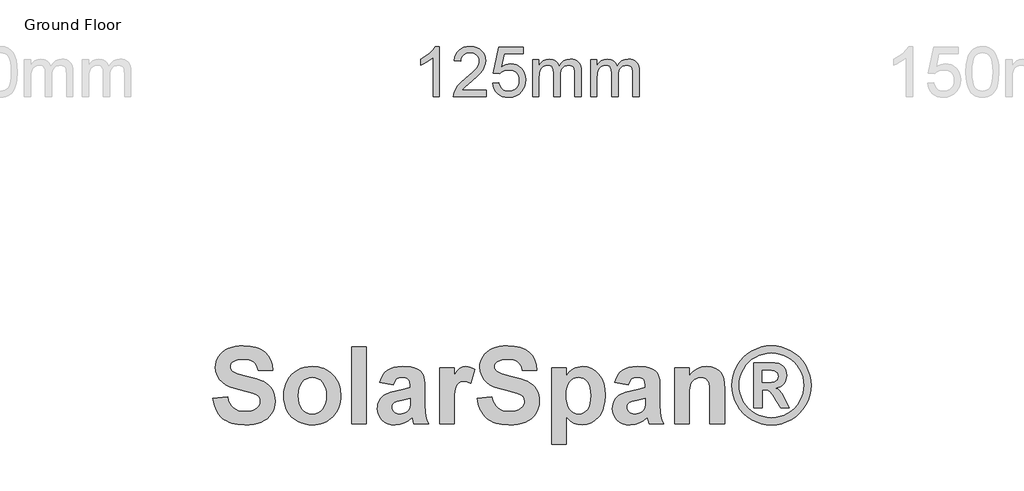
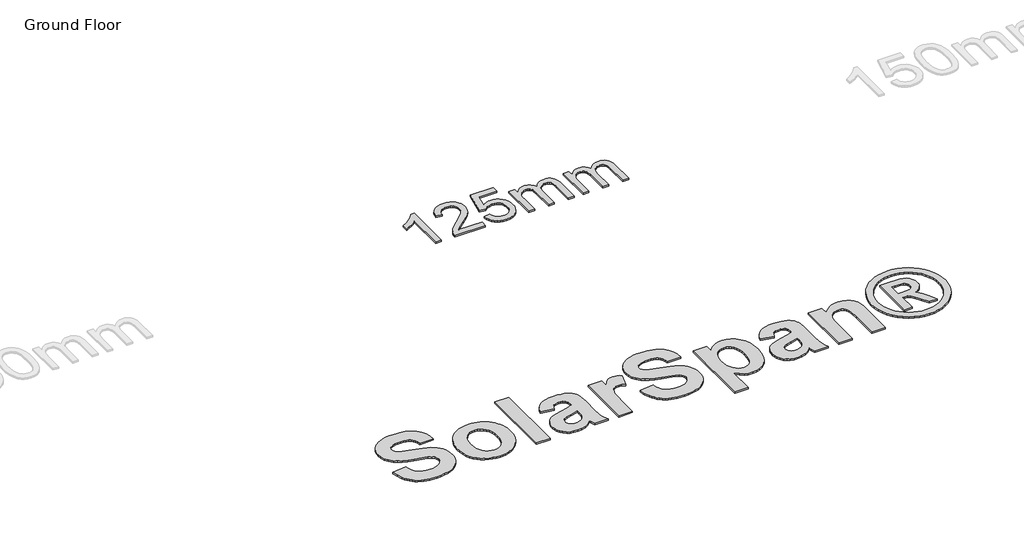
# One storey, part 2 of 3: 2 proxies.
"""IFC4 building model written with IfcOpenShell, lengths in millimetres."""

import ifcopenshell
import ifcopenshell.guid

model = None  # the IFC model being written
_history = None  # IfcOwnerHistory: only IFC2X3 demands one
_inside = {}  # id of a spatial element -> (the spatial element, [elements in it])
_under = {}  # id of a project, library or spatial element -> (it, [spatial elements below it])
_declared = {}  # id of a project -> (the project, [libraries it declares])
_typed = {}  # id of a type object -> (the type object, [elements of that type])
_made_of = {}  # id of a material, layer set ... -> (it, [elements and type objects made of it])


def new_model(schema):
    """Start an empty IFC model of exactly this schema.

    Asked for "IFC4X3", IfcOpenShell would pick the latest addendum, in which some entities
    have other attributes; the version numbers below select the first issue.
    IFC2X3 requires an IfcOwnerHistory on every rooted entity: one is made here for all.
    """
    global model, _history
    if schema == "IFC4X3":
        model = ifcopenshell.file(schema_version=(4, 3, 0, 0))
    else:
        model = ifcopenshell.file(schema=schema)
    _inside.clear()
    _under.clear()
    _declared.clear()
    _typed.clear()
    _made_of.clear()
    _history = None
    if model.schema == "IFC2X3":
        org = make("IfcOrganization", Name="unknown")
        user = make(
            "IfcPersonAndOrganization",
            ThePerson=make("IfcPerson", FamilyName="unknown"),
            TheOrganization=org,
        )
        app = make(
            "IfcApplication",
            ApplicationDeveloper=org,
            Version="unknown",
            ApplicationFullName="unknown",
            ApplicationIdentifier="unknown",
        )
        _history = make(
            "IfcOwnerHistory",
            OwningUser=user,
            OwningApplication=app,
            ChangeAction="ADDED",
            CreationDate=0,
        )
    return model


def make(cls, **values):
    """One entity of the class cls with the attributes given. An attribute that is None is left unset."""
    return model.create_entity(
        cls, **{name: value for name, value in values.items() if value is not None}
    )


def rooted(cls, **values):
    """An entity with a GlobalId (a new one), such as an element, a storey or a relation."""
    return make(cls, GlobalId=ifcopenshell.guid.new(), OwnerHistory=_history, **values)


def si_unit(unit_type, name, prefix=None):
    """IfcSIUnit, for example si_unit("LENGTHUNIT", "METRE", prefix="MILLI")."""
    return make("IfcSIUnit", UnitType=unit_type, Prefix=prefix, Name=name)


def assignment(units):
    """IfcUnitAssignment: the units of a project."""
    return None if units is None else make("IfcUnitAssignment", Units=units)


def point(xyz):
    """IfcCartesianPoint."""
    return None if xyz is None else make("IfcCartesianPoint", Coordinates=xyz)


def direction(xyz):
    """IfcDirection."""
    return None if xyz is None else make("IfcDirection", DirectionRatios=xyz)


def frame(location, z_axis=None, x_axis=None):
    """IfcAxis2Placement3D, a coordinate frame: its origin and axes. An axis left out is left unset."""
    return make(
        "IfcAxis2Placement3D",
        Location=point(location),
        Axis=direction(z_axis),
        RefDirection=direction(x_axis),
    )


def origin():
    """The frame at (0, 0, 0) with its axes left unset."""
    return frame((0.0, 0.0, 0.0))


def origin_with_axes():
    """The frame at (0, 0, 0) with the z axis (0, 0, 1) and the x axis (1, 0, 0) written out."""
    return frame((0.0, 0.0, 0.0), z_axis=(0.0, 0.0, 1.0), x_axis=(1.0, 0.0, 0.0))


def place(relative_to, where):
    """IfcLocalPlacement: puts the frame where relative to a parent placement (None: the world)."""
    return make(
        "IfcLocalPlacement", PlacementRelTo=relative_to, RelativePlacement=where
    )


def context(
    kind, dimensions, precision=None, world=None, true_north=None, identifier=None
):
    """IfcGeometricRepresentationContext, for example the 3D "Model" context."""
    return make(
        "IfcGeometricRepresentationContext",
        ContextIdentifier=identifier,
        ContextType=kind,
        CoordinateSpaceDimension=dimensions,
        Precision=precision,
        WorldCoordinateSystem=world,
        TrueNorth=true_north,
    )


def project(units=None, contexts=None):
    """IfcProject with its units and contexts."""
    return rooted(
        "IfcProject",
        Name="project",
        RepresentationContexts=contexts,
        UnitsInContext=assignment(units),
    )


def spatial(cls, under=None, at=None, **own):
    """A site, building, storey or space (cls), placed at a placement, below another one or the project."""
    s = rooted(cls, ObjectPlacement=at, **own)
    if under is not None:
        _under.setdefault(under.id(), (under, []))[1].append(s)
    return s


def polyline(points):
    """IfcPolyline through the points."""
    return make("IfcPolyline", Points=[point(p) for p in points])


def outline(outer, holes=None, kind="AREA"):
    """IfcArbitraryClosedProfileDef: a profile drawn as a closed curve; with holes, ...WithVoids."""
    if holes is None:
        return make("IfcArbitraryClosedProfileDef", ProfileType=kind, OuterCurve=outer)
    return make(
        "IfcArbitraryProfileDefWithVoids",
        ProfileType=kind,
        OuterCurve=outer,
        InnerCurves=holes,
    )


def extrude(swept, where, along, depth):
    """IfcExtrudedAreaSolid: the profile swept, set in the frame where, extruded along a direction by depth."""
    return make(
        "IfcExtrudedAreaSolid",
        SweptArea=swept,
        Position=where,
        ExtrudedDirection=direction(along),
        Depth=depth,
    )


def shape(context_of_items, identifier, shape_type, items):
    """IfcShapeRepresentation: the items that make up one representation, for example the "Body"."""
    return make(
        "IfcShapeRepresentation",
        ContextOfItems=context_of_items,
        RepresentationIdentifier=identifier,
        RepresentationType=shape_type,
        Items=items,
    )


def made_of(thing, what):
    """Note that an element or type object is made of a material, layer set ...; save() writes the relation."""
    if what is not None:
        _made_of.setdefault(what.id(), (what, []))[1].append(thing)
    return thing


def element(
    cls,
    number,
    at=None,
    inside=None,
    cuts=None,
    type_object=None,
    material=None,
    context=None,
    identifier="Body",
    shape_type=None,
    held_by="IfcProductDefinitionShape",
    body=None,
    shapes=None,
    **own,
):
    """One element of the class cls, such as IfcWall. Its Tag is "e" and its number.

    at: its placement. inside: the storey or other place that contains it. cuts: it is an
    opening in that element (IfcRelVoidsElement). A single representation is given by context,
    identifier, shape_type and body (its items); several are given by shapes. held_by: the class
    of the entity that holds the representations. save() writes the other relations.
    """
    e = rooted(cls, Tag="e%d" % number, ObjectPlacement=at, **own)
    if body is not None:
        shapes = [shape(context, identifier, shape_type, body)]
    if shapes is not None:
        e.Representation = make(held_by, Representations=shapes)
    if inside is not None:
        _inside.setdefault(inside.id(), (inside, []))[1].append(e)
    if cuts is not None:
        rooted(
            "IfcRelVoidsElement", RelatingBuildingElement=cuts, RelatedOpeningElement=e
        )
    if type_object is not None:
        _typed.setdefault(type_object.id(), (type_object, []))[1].append(e)
    return made_of(e, material)


def aggregate(whole, parts):
    """IfcRelAggregates: a whole, such as a stair, and the parts it consists of."""
    return rooted("IfcRelAggregates", RelatingObject=whole, RelatedObjects=parts)


def save(model, path):
    """Write the relations noted so far, then the file.

    IfcRelAggregates (storeys below a building ...), IfcRelContainedInSpatialStructure (elements
    in a storey), IfcRelDefinesByType, IfcRelAssociatesMaterial and IfcRelDeclares: one each for
    every whole, place, type object, material and project.
    """
    for whole, parts in _under.values():
        aggregate(whole, parts)
    for where, things in _inside.values():
        rooted(
            "IfcRelContainedInSpatialStructure",
            RelatedElements=things,
            RelatingStructure=where,
        )
    for kind, things in _typed.values():
        rooted("IfcRelDefinesByType", RelatedObjects=things, RelatingType=kind)
    for what, things in _made_of.values():
        rooted("IfcRelAssociatesMaterial", RelatedObjects=things, RelatingMaterial=what)
    for by, libraries in _declared.values():
        rooted("IfcRelDeclares", RelatingContext=by, RelatedDefinitions=libraries)
    model.write(path)


model = new_model("IFC4")

# Units and contexts
model_context = context("Model", 3, world=origin())
ifc_project = project(units=[si_unit("LENGTHUNIT", "METRE", prefix="MILLI")], contexts=[model_context])

# Site, building, storey
site = spatial("IfcSite", under=ifc_project)
building = spatial("IfcBuilding", under=site)
storey = spatial("IfcBuildingStorey", under=building, Name="Ground Floor", Elevation=0.0)

# Proxies
placement = place(None, origin())
element("IfcBuildingElementProxy", 1, Name="600mm Arial", ObjectType="600mm Arial", at=placement, inside=storey, context=model_context, shape_type="SweptSolid", body=[
    extrude(outline(polyline([(9514.4488498, -2485.58737), (9439.1066172, -2485.58737), (9439.1066172, -2015.8756386), (9407.6527066, -2041.3146785), (9367.7375101, -2066.7169303), (9325.8357509, -2088.9186087), (9288.422152, -2104.7559286), (9288.422152, -2033.5339743), (9347.5959709, -2001.3442998), (9398.8603269, -1963.0477841), (9439.2721641, -1922.3232472), (9465.8884265, -1882.8495091), (9514.4488498, -1882.8495091), (9514.4488498, -2485.58737)])), origin_with_axes(), (0.0, 0.0, 1.0), 20.0),
    extrude(outline(polyline([(10079.5155944, -2410.2451374), (10079.5155944, -2485.58737), (9683.9688732, -2485.58737), (9685.6243422, -2459.0630782), (9692.0622771, -2433.6424323), (9710.6403178, -2393.0466541), (9737.8267973, -2353.6648865), (9777.1533826, -2312.443709), (9832.1517409, -2266.3297009), (9913.4536618, -2194.1144652), (9962.2348144, -2140.8083641), (9976.4626505, -2119.02975), (9986.6253906, -2097.5454415), (9992.7230347, -2076.3554386), (9994.7555827, -2055.4597412), (9992.8379978, -2035.8010471), (9987.0852431, -2017.7334426), (9977.4973186, -2001.2569278), (9964.0742243, -1986.3715026), (9947.5609213, -1974.0428572), (9928.7023705, -1965.2366819), (9907.498572, -1959.9529768), (9883.9495258, -1958.1917417), (9859.1404837, -1959.9115901), (9836.9526009, -1965.071135), (9817.3858773, -1973.6703767), (9800.4403129, -1985.709315), (9786.73211, -2000.7832797), (9776.8774711, -2018.4876007), (9770.876396, -2038.822278), (9768.7288849, -2061.7873116), (9693.3866523, -2052.3695325), (9699.8659739, -2013.4752085), (9711.6519933, -1979.4921092), (9728.7447105, -1950.4202346), (9751.1441255, -1926.2595845), (9778.3352035, -1907.2676765), (9809.8029096, -1893.702028), (9845.547244, -1885.5626388), (9885.5682066, -1882.8495091), (9925.9478541, -1885.8661415), (9961.8853265, -1894.9160386), (9993.3806238, -1909.9992004), (10020.433746, -1931.1156269), (10042.1617763, -1956.7018196), (10057.681798, -1985.1942802), (10066.993811, -2016.5930085), (10070.0978153, -2050.8980045), (10066.7500892, -2086.9320459), (10056.7069107, -2122.340688), (10038.883028, -2158.3563353), (10012.1931893, -2196.2113926), (9969.6476366, -2241.4056957), (9904.2566119, -2299.4390805), (9817.5836138, -2371.9118335), (9783.5913175, -2410.2451374), (10079.5155944, -2410.2451374)])), origin_with_axes(), (0.0, 0.0, 1.0), 20.0),
    extrude(outline(polyline([(10154.857827, -2325.4851257), (10230.2000596, -2316.0673466), (10235.8286542, -2340.2877775), (10244.0324227, -2361.2984379), (10254.8113651, -2379.099328), (10268.1654815, -2393.6904476), (10284.0671808, -2405.0534027), (10302.4888717, -2413.1697993), (10323.4305543, -2418.0396372), (10346.8922285, -2419.6629165), (10375.5870241, -2417.4050407), (10400.8973054, -2410.6314135), (10422.8230723, -2399.3420348), (10441.3643249, -2383.5369045), (10456.1071958, -2363.9977721), (10466.6378179, -2341.5063866), (10472.9561912, -2316.0627481), (10475.0623156, -2287.6668566), (10473.0895484, -2260.8298651), (10467.1712468, -2236.9727177), (10457.3074108, -2216.0954144), (10443.4980404, -2198.1979554), (10425.6971504, -2183.8413605), (10403.8587555, -2173.5866499), (10377.9828556, -2167.4338235), (10348.0694509, -2165.3828814), (10311.5203747, -2168.6570312), (10281.9242682, -2178.4794804), (10258.28785, -2193.525854), (10239.6178387, -2212.4717768), (10164.2756061, -2203.0539977), (10230.2000596, -1892.2672882), (10522.151211, -1892.2672882), (10522.151211, -1967.6095208), (10291.121318, -1967.6095208), (10258.8948553, -2133.597877), (10285.4835265, -2114.5415897), (10312.7159912, -2100.9299559), (10340.5922493, -2092.7629756), (10369.112301, -2090.0406488), (10405.8039315, -2093.4159661), (10439.5065208, -2103.541918), (10470.2200689, -2120.4185045), (10497.9445757, -2144.0457257), (10520.8958137, -2172.9796446), (10537.2895551, -2205.7763245), (10547.1258, -2242.4357653), (10550.4045482, -2282.9579671), (10547.4522952, -2321.9902468), (10538.5955362, -2358.3001997), (10523.8342711, -2391.8878258), (10503.1685001, -2422.7531252), (10471.8617423, -2454.3633857), (10435.3310601, -2476.9421431), (10393.5764537, -2490.4893976), (10346.5979229, -2495.0051491), (10307.7173945, -2492.1034798), (10272.5984596, -2483.3984721), (10241.241118, -2468.890126), (10213.6453699, -2448.5784413), (10190.6849348, -2423.4750936), (10173.2335327, -2394.5917585), (10161.2911634, -2361.9284359), (10154.857827, -2325.4851257)])), origin_with_axes(), (0.0, 0.0, 1.0), 20.0),
    extrude(outline(polyline([(10635.1645599, -2485.58737), (10635.1645599, -2042.9517534), (10710.5067925, -2042.9517534), (10710.5067925, -2115.7923885), (10733.1683234, -2082.333521), (10762.3045775, -2056.1219288), (10796.9222732, -2039.180963), (10836.0281293, -2033.5339743), (10877.9298885, -2039.2913276), (10895.7629683, -2046.4880191), (10911.5175147, -2056.5633872), (10936.6070668, -2084.2097192), (10953.0146038, -2121.0898892), (10980.4769947, -2082.7841764), (11011.8021466, -2055.422953), (11046.9900594, -2039.006219), (11086.0407332, -2033.5339743), (11116.2024583, -2035.8102442), (11142.6761664, -2042.6390537), (11165.4618575, -2054.0204029), (11184.5595315, -2069.9542919), (11199.6564889, -2090.6246615), (11210.4400299, -2116.2154528), (11216.9101545, -2146.7266657), (11219.0668627, -2182.1583004), (11219.0668627, -2485.58737), (11143.7246301, -2485.58737), (11143.7246301, -2214.531916), (11141.9771906, -2176.9527702), (11136.7348722, -2151.6240948), (11126.9124229, -2134.2784587), (11111.4245909, -2120.6484308), (11091.5037808, -2111.8192629), (11068.3823974, -2108.8762069), (11047.0314462, -2110.7616022), (11027.5658901, -2116.4177879), (11009.9857292, -2125.844764), (10994.2909636, -2139.0425306), (10981.3829041, -2156.3973637), (10972.1628616, -2178.2955394), (10966.6308361, -2204.7370578), (10964.7868276, -2235.7219189), (10964.7868276, -2485.58737), (10889.444595, -2485.58737), (10889.444595, -2206.1442065), (10885.0851934, -2163.5434714), (10879.6359413, -2146.8232348), (10872.0069884, -2133.1564186), (10861.8948321, -2122.533826), (10848.9959696, -2114.9462599), (10833.3104011, -2110.3937202), (10814.8381264, -2108.8762069), (10785.812237, -2112.9229089), (10759.0672159, -2125.0630147), (10736.9942962, -2145.0022189), (10721.9847108, -2172.4462157), (10713.3762721, -2210.5220022), (10710.5067925, -2262.3565753), (10710.5067925, -2485.58737), (10635.1645599, -2485.58737)])), origin_with_axes(), (0.0, 0.0, 1.0), 20.0),
    extrude(outline(polyline([(11332.0802116, -2485.58737), (11332.0802116, -2042.9517534), (11407.4224442, -2042.9517534), (11407.4224442, -2115.7923885), (11430.0839751, -2082.333521), (11459.2202291, -2056.1219288), (11493.8379249, -2039.180963), (11532.943781, -2033.5339743), (11574.8455402, -2039.2913276), (11592.6786199, -2046.4880191), (11608.4331664, -2056.5633872), (11633.5227184, -2084.2097192), (11649.9302554, -2121.0898892), (11677.3926464, -2082.7841764), (11708.7177983, -2055.422953), (11743.9057111, -2039.006219), (11782.9563849, -2033.5339743), (11813.11811, -2035.8102442), (11839.591818, -2042.6390537), (11862.3775091, -2054.0204029), (11881.4751832, -2069.9542919), (11896.5721406, -2090.6246615), (11907.3556815, -2116.2154528), (11913.8258061, -2146.7266657), (11915.9825143, -2182.1583004), (11915.9825143, -2485.58737), (11840.6402817, -2485.58737), (11840.6402817, -2214.531916), (11838.8928422, -2176.9527702), (11833.6505238, -2151.6240948), (11823.8280745, -2134.2784587), (11808.3402425, -2120.6484308), (11788.4194325, -2111.8192629), (11765.2980491, -2108.8762069), (11743.9470978, -2110.7616022), (11724.4815417, -2116.4177879), (11706.9013809, -2125.844764), (11691.2066153, -2139.0425306), (11678.2985558, -2156.3973637), (11669.0785133, -2178.2955394), (11663.5464878, -2204.7370578), (11661.7024793, -2235.7219189), (11661.7024793, -2485.58737), (11586.3602467, -2485.58737), (11586.3602467, -2206.1442065), (11582.000845, -2163.5434714), (11576.551593, -2146.8232348), (11568.9226401, -2133.1564186), (11558.8104837, -2122.533826), (11545.9116213, -2114.9462599), (11530.2260527, -2110.3937202), (11511.753778, -2108.8762069), (11482.7278886, -2112.9229089), (11455.9828676, -2125.0630147), (11433.9099479, -2145.0022189), (11418.9003625, -2172.4462157), (11410.2919238, -2210.5220022), (11407.4224442, -2262.3565753), (11407.4224442, -2485.58737), (11332.0802116, -2485.58737)])), origin_with_axes(), (0.0, 0.0, 1.0), 20.0),
])
element("IfcBuildingElementProxy", 2, Name="900mm Arial", ObjectType="900mm Arial", at=placement, inside=storey, context=model_context, shape_type="SweptSolid", body=[
    extrude(outline(polyline([(6794.4163164, -6112.427625), (6970.0284657, -6097.7932792), (6980.6612325, -6140.0671023), (6995.6385708, -6176.3385569), (7014.9604804, -6206.6076432), (7038.6269615, -6230.8743611), (7066.7094707, -6249.481703), (7099.2794648, -6262.7726616), (7136.3369439, -6270.7472367), (7177.8819079, -6273.4054285), (7221.5419922, -6271.0545008), (7259.4569525, -6264.001718), (7291.6267887, -6252.2470799), (7318.051501, -6235.7905866), (7338.6596324, -6216.1899956), (7353.3797263, -6195.0030643), (7362.2117826, -6172.2297928), (7365.1558014, -6147.8701812), (7360.2681586, -6118.0012528), (7345.6052301, -6092.8770537), (7318.7089032, -6071.6401027), (7277.1210651, -6053.4329186), (7124.8324045, -6014.331776), (7054.1473711, -5995.2528194), (6994.838255, -5973.9158289), (6946.905056, -5950.3208046), (6910.3477743, -5924.4677465), (6872.4328141, -5884.437666), (6845.3506996, -5840.263093), (6829.1014309, -5791.9440275), (6823.685008, -5739.4804696), (6826.1717035, -5704.95256), (6833.6317899, -5671.5679587), (6846.0652672, -5639.3266657), (6863.4721355, -5608.228681), (6885.5665677, -5579.5173522), (6912.0627367, -5554.4360272), (6942.9606425, -5532.9847059), (6978.2602852, -5515.1633883), (7017.6901289, -5501.1578621), (7060.978638, -5491.1539148), (7108.1258125, -5485.1515464), (7159.1316524, -5483.150757), (7240.3279761, -5488.1384393), (7310.8200762, -5503.1014862), (7342.0520424, -5514.3237713), (7370.6079527, -5528.0398977), (7396.4878071, -5544.2498651), (7419.6916056, -5562.9536737), (7458.2282397, -5606.1850174), (7486.37506, -5656.0761318), (7504.1320665, -5712.6270167), (7511.4992591, -5775.8376723), (7335.8871099, -5775.8376723), (7327.9482631, -5743.2033671), (7316.4794521, -5715.4995787), (7301.4806768, -5692.7263073), (7282.9519373, -5674.8835527), (7260.1215004, -5661.4282436), (7232.2176331, -5651.8173085), (7199.2403354, -5646.0507474), (7161.1896073, -5644.1285604), (7121.5168105, -5646.1722239), (7086.4172469, -5652.3032145), (7055.8909162, -5662.5215321), (7029.9378187, -5676.8271767), (7016.5325293, -5688.2316767), (7006.9573226, -5701.4083044), (7001.2121985, -5716.3570599), (6999.2971572, -5733.0779433), (7001.0407023, -5748.6126443), (7006.2713376, -5762.9754544), (7014.9890631, -5776.1663735), (7027.1938788, -5788.1854016), (7051.2390807, -5802.826893), (7087.9321303, -5817.7113375), (7199.2617724, -5848.2090854), (7318.0800837, -5879.9358897), (7364.1339696, -5896.3566546), (7401.2843425, -5913.1489947), (7432.210831, -5931.6920256), (7459.5930639, -5953.3648629), (7483.4310412, -5978.1675065), (7503.7247629, -6006.0999565), (7519.9311575, -6037.3265635), (7531.5071537, -6072.0116779), (7538.4527514, -6110.1552998), (7540.7679506, -6151.7574293), (7538.0311565, -6190.458414), (7529.820774, -6227.9017596), (7516.1368032, -6264.0874661), (7496.9792441, -6299.0155335), (7472.8125657, -6331.113913), (7444.101237, -6358.8105557), (7410.8452579, -6382.1054616), (7373.0446284, -6400.9986306), (7330.5064154, -6415.6043937), (7283.0376854, -6426.0370816), (7230.6384386, -6432.2966943), (7173.3086748, -6434.3832319), (7091.2477243, -6429.2454904), (7019.3050518, -6413.8322659), (6987.1280699, -6402.2723475), (6957.4806575, -6388.1435583), (6930.3628146, -6371.4458984), (6905.7745413, -6352.1793678), (6883.6265165, -6330.4511515), (6863.8294194, -6306.3684348), (6846.3832498, -6279.9312176), (6831.2880079, -6251.1395), (6808.150307, -6186.4925634), (6794.4163164, -6112.427625)])), origin_with_axes(), (0.0, 0.0, 1.0), 20.0),
    extrude(outline(polyline([(7643.208371, -6073.5551441), (7645.9165824, -6029.6592524), (7654.0412168, -5986.4636371), (7667.582274, -5943.9682981), (7686.5397542, -5902.1732354), (7710.4563339, -5863.179278), (7738.8746899, -5829.0872547), (7771.7948222, -5799.8971656), (7809.2167308, -5775.6090107), (7850.0471272, -5756.5014713), (7893.1927227, -5742.8532289), (7938.6535175, -5734.6642835), (7986.4295116, -5731.934635), (8023.4173203, -5733.481674), (8058.6937395, -5738.122791), (8092.2587691, -5745.857986), (8124.1124092, -5756.6872589), (8154.2546597, -5770.6106099), (8182.6855206, -5787.6280388), (8209.404992, -5807.7395457), (8234.4130739, -5830.9451306), (8257.0559367, -5856.5159345), (8276.6797512, -5883.7230983), (8293.2845173, -5912.5666221), (8306.870235, -5943.0465058), (8317.4369044, -5975.1627495), (8324.9845253, -6008.9153531), (8331.0226221, -6081.3296402), (8329.4970201, -6118.6425773), (8324.9202142, -6154.3227272), (8317.2922044, -6188.37009), (8306.6129907, -6220.7846656), (8292.882573, -6251.5664542), (8276.1009514, -6280.7154557), (8256.2681259, -6308.23167), (8233.3840964, -6334.1150972), (8208.1884406, -6357.6154413), (8181.4207359, -6377.9824061), (8153.0809823, -6395.2159918), (8123.1691799, -6409.3161982), (8091.6853286, -6420.2830255), (8058.6294284, -6428.1164735), (8024.0014794, -6432.8165423), (7987.8014815, -6434.3832319), (7942.4907459, -6431.7750599), (7898.2518618, -6423.950544), (7855.0848292, -6410.9096841), (7812.9896481, -6392.6524803), (7773.9170882, -6369.3504288), (7739.8179192, -6341.1750257), (7710.6921412, -6308.1262713), (7686.5397542, -6270.2041653), (7667.582274, -6227.6445152), (7654.0412168, -6180.6831283), (7645.9165824, -6129.3200046), (7643.208371, -6073.5551441)]), holes=[polyline([(7818.8205202, -6083.1589335), (7821.8574328, -6133.2143984), (7830.9681705, -6177.0531246), (7846.1527334, -6214.6751121), (7867.4111214, -6246.080361), (7893.1284116, -6270.8401305), (7921.6896812, -6288.5256802), (7953.09493, -6299.13701), (7987.3441582, -6302.67412), (8021.579095, -6299.13701), (8052.9414698, -6288.5256802), (8081.4312826, -6270.8401305), (8107.0485334, -6246.080361), (8128.2068819, -6214.589364), (8143.319988, -6176.7101321), (8152.3878517, -6132.4426653), (8155.4104729, -6081.7869636), (8152.3878517, -6032.3317355), (8143.319988, -5988.9217499), (8128.2068819, -5951.5570067), (8107.0485334, -5920.237506), (8081.4312826, -5895.4777364), (8052.9414698, -5877.7921867), (8021.579095, -5867.1808569), (7987.3441582, -5863.6437469), (7953.09493, -5867.1808569), (7921.6896812, -5877.7921867), (7893.1284116, -5895.4777364), (7867.4111214, -5920.237506), (7846.1527334, -5951.6427548), (7830.9681705, -5989.2647424), (7821.8574328, -6033.1034686), (7818.8205202, -6083.1589335)])]), origin_with_axes(), (0.0, 0.0, 1.0), 20.0),
    extrude(outline(polyline([(8462.731734, -6419.7488861), (8462.731734, -5497.7851027), (8638.3438832, -5497.7851027), (8638.3438832, -6419.7488861), (8462.731734, -6419.7488861)])), origin_with_axes(), (0.0, 0.0, 1.0), 20.0),
    extrude(outline(polyline([(8960.2994901, -5951.4498216), (8799.3216867, -5922.18113), (8814.4490841, -5876.8489574), (8834.2211714, -5837.8049802), (8858.6379485, -5805.0491985), (8887.6994154, -5778.5816122), (8922.8775815, -5758.1735597), (8965.6444563, -5743.5963793), (9016.0000396, -5734.8500711), (9073.9443315, -5731.934635), (9126.4936375, -5733.6996172), (9171.8686842, -5738.9945636), (9210.0694716, -5747.8194742), (9241.0959996, -5760.1743491), (9266.5060257, -5775.2374355), (9287.8573075, -5792.1869805), (9305.149845, -5811.0229841), (9318.3836381, -5831.7454464), (9328.1875065, -5857.9486427), (9335.1902696, -5893.2268483), (9339.3919275, -5937.5800632), (9340.7924801, -5991.0082875), (9340.7924801, -6198.633068), (9343.1076793, -6275.692045), (9350.053277, -6329.4275333), (9363.3442356, -6373.0447436), (9384.6955174, -6419.7488861), (9209.0833682, -6419.7488861), (9192.6197292, -6363.9554429), (9186.4458646, -6341.7752626), (9140.9993611, -6382.2197924), (9092.4659253, -6411.1740742), (9040.7312264, -6428.5809425), (8985.6809336, -6434.3832319), (8938.2550777, -6430.8604133), (8896.1313139, -6420.2919576), (8859.3096421, -6402.6778646), (8827.7900624, -6378.0181345), (8802.5300955, -6347.9848556), (8784.487262, -6314.2501162), (8773.6615619, -6276.8139162), (8770.0529951, -6235.6762558), (8771.6607724, -6207.9796131), (8776.4841041, -6181.8264366), (8784.5229903, -6157.2167262), (8795.7774311, -6134.150482), (8809.9330165, -6113.156484), (8826.6753369, -6094.7635123), (8846.0043922, -6078.971567), (8867.9201825, -6065.7806479), (8924.5711069, -6043.5433021), (9001.6872493, -6024.3928887), (9101.555226, -6001.8125505), (9165.1803309, -5980.7185131), (9165.1803309, -5962.1969192), (9159.7210339, -5916.5789195), (9152.8969127, -5899.5150437), (9143.3431431, -5886.2812506), (9130.0164561, -5876.3773427), (9111.8735831, -5869.3031228), (9088.9145241, -5865.0585909), (9061.1392789, -5863.6437469), (9024.7249108, -5868.5028071), (9009.9047774, -5874.5766322), (8997.3426779, -5883.0799874), (8976.6487983, -5909.8905662), (8960.2994901, -5951.4498216)]), holes=[polyline([(9165.1803309, -6112.427625), (9066.1698353, -6136.780091), (9010.1477304, -6150.7570345), (8977.4491141, -6164.5624818), (8963.5436273, -6176.2956829), (8953.6111368, -6189.5437674), (8947.6516425, -6204.3067353), (8945.6651444, -6220.5845867), (8947.2586303, -6236.7123789), (8952.0390879, -6251.7111542), (8960.0065174, -6265.5809125), (8971.1609186, -6278.321654), (8984.7734326, -6288.9758579), (9000.1152004, -6296.5860035), (9017.1862219, -6301.1520909), (9035.9864971, -6302.67412), (9057.7808109, -6300.9019922), (9079.0320533, -6295.5856088), (9099.7402242, -6286.7249697), (9119.9053237, -6274.3200751), (9144.4864513, -6250.4249324), (9158.7778046, -6221.727895), (9163.5796993, -6192.1733764), (9165.1803309, -6144.2115947), (9165.1803309, -6112.427625)])]), origin_with_axes(), (0.0, 0.0, 1.0), 20.0),
    extrude(outline(polyline([(9692.0167785, -6419.7488861), (9516.4046293, -6419.7488861), (9516.4046293, -5746.5689808), (9692.0167785, -5746.5689808), (9692.0167785, -5840.3202584), (9729.1171317, -5785.1842174), (9746.1667161, -5766.1695718), (9762.2159059, -5752.8571762), (9795.4861764, -5737.1652703), (9833.1010182, -5731.934635), (9860.7547868, -5734.2498343), (9887.9226494, -5741.195432), (9914.604606, -5752.7714281), (9940.8006566, -5768.9778228), (9889.5804464, -5936.1294908), (9847.2780407, -5914.6924609), (9827.3273115, -5909.3332034), (9808.1768981, -5907.5467842), (9774.4207216, -5912.5487579), (9746.323921, -5927.5546789), (9734.3620583, -5939.5665613), (9723.7435828, -5955.594314), (9706.5367935, -5999.6974303), (9700.1842869, -6032.9105353), (9695.6467823, -6080.4149936), (9692.0167785, -6218.2979702), (9692.0167785, -6419.7488861)])), origin_with_axes(), (0.0, 0.0, 1.0), 20.0),
    extrude(outline(polyline([(9970.0693481, -6112.427625), (10145.6814973, -6097.7932792), (10156.3142642, -6140.0671023), (10171.2916024, -6176.3385569), (10190.6135121, -6206.6076432), (10214.2799931, -6230.8743611), (10242.3625024, -6249.481703), (10274.9324965, -6262.7726616), (10311.9899756, -6270.7472367), (10353.5349396, -6273.4054285), (10397.1950239, -6271.0545008), (10435.1099842, -6264.001718), (10467.2798204, -6252.2470799), (10493.7045326, -6235.7905866), (10514.3126641, -6216.1899956), (10529.032758, -6195.0030643), (10537.8648143, -6172.2297928), (10540.8088331, -6147.8701812), (10535.9211903, -6118.0012528), (10521.2582618, -6092.8770537), (10494.3619349, -6071.6401027), (10452.7740968, -6053.4329186), (10300.4854362, -6014.331776), (10229.8004028, -5995.2528194), (10170.4912867, -5973.9158289), (10122.5580877, -5950.3208046), (10086.000806, -5924.4677465), (10048.0858457, -5884.437666), (10021.0037313, -5840.263093), (10004.7544626, -5791.9440275), (9999.3380397, -5739.4804696), (10001.8247351, -5704.95256), (10009.2848216, -5671.5679587), (10021.7182989, -5639.3266657), (10039.1251672, -5608.228681), (10061.2195994, -5579.5173522), (10087.7157684, -5554.4360272), (10118.6136742, -5532.9847059), (10153.9133168, -5515.1633883), (10193.3431606, -5501.1578621), (10236.6316697, -5491.1539148), (10283.7788442, -5485.1515464), (10334.7846841, -5483.150757), (10415.9810078, -5488.1384393), (10486.4731079, -5503.1014862), (10517.7050741, -5514.3237713), (10546.2609844, -5528.0398977), (10572.1408388, -5544.2498651), (10595.3446372, -5562.9536737), (10633.8812714, -5606.1850174), (10662.0280917, -5656.0761318), (10679.7850981, -5712.6270167), (10687.1522908, -5775.8376723), (10511.5401416, -5775.8376723), (10503.6012948, -5743.2033671), (10492.1324838, -5715.4995787), (10477.1337085, -5692.7263073), (10458.604969, -5674.8835527), (10435.7745321, -5661.4282436), (10407.8706648, -5651.8173085), (10374.8933671, -5646.0507474), (10336.8426389, -5644.1285604), (10297.1698422, -5646.1722239), (10262.0702785, -5652.3032145), (10231.5439479, -5662.5215321), (10205.5908503, -5676.8271767), (10192.185561, -5688.2316767), (10182.6103542, -5701.4083044), (10176.8652302, -5716.3570599), (10174.9501889, -5733.0779433), (10176.693734, -5748.6126443), (10181.9243693, -5762.9754544), (10190.6420948, -5776.1663735), (10202.8469105, -5788.1854016), (10226.8921124, -5802.826893), (10263.585162, -5817.7113375), (10374.9148041, -5848.2090854), (10493.7331154, -5879.9358897), (10539.7870013, -5896.3566546), (10576.9373742, -5913.1489947), (10607.8638627, -5931.6920256), (10635.2460956, -5953.3648629), (10659.0840729, -5978.1675065), (10679.3777946, -6006.0999565), (10695.5841892, -6037.3265635), (10707.1601854, -6072.0116779), (10714.1057831, -6110.1552998), (10716.4209823, -6151.7574293), (10713.6841882, -6190.458414), (10705.4738057, -6227.9017596), (10691.7898349, -6264.0874661), (10672.6322758, -6299.0155335), (10648.4655974, -6331.113913), (10619.7542687, -6358.8105557), (10586.4982896, -6382.1054616), (10548.6976601, -6400.9986306), (10506.159447, -6415.6043937), (10458.6907171, -6426.0370816), (10406.2914703, -6432.2966943), (10348.9617065, -6434.3832319), (10266.9007559, -6429.2454904), (10194.9580835, -6413.8322659), (10162.7811016, -6402.2723475), (10133.1336892, -6388.1435583), (10106.0158463, -6371.4458984), (10081.427573, -6352.1793678), (10059.2795482, -6330.4511515), (10039.4824511, -6306.3684348), (10022.0362815, -6279.9312176), (10006.9410396, -6251.1395), (9983.8033386, -6186.4925634), (9970.0693481, -6112.427625)])), origin_with_axes(), (0.0, 0.0, 1.0), 20.0),
    extrude(outline(polyline([(10862.76444, -5746.5689808), (11038.3765892, -5746.5689808), (11038.3765892, -5843.5215215), (11055.1689293, -5819.7835837), (11074.6766266, -5798.4180105), (11096.8996809, -5779.424802), (11121.8380924, -5762.8039581), (11148.8630415, -5749.2986293), (11177.3457086, -5739.6519658), (11207.2860937, -5733.8639677), (11238.6841969, -5731.934635), (11292.4839964, -5737.6726134), (11342.0678466, -5754.8865484), (11387.4357476, -5783.5764401), (11428.5876994, -5823.7422886), (11446.8895637, -5847.8178596), (11462.7511795, -5874.1407459), (11487.1536652, -5933.5284645), (11501.7951566, -6001.9054443), (11506.6756538, -6079.2716854), (11501.6379518, -6158.8316491), (11486.5248456, -6228.9879024), (11475.1900161, -6260.5396377), (11461.3363355, -6289.7404453), (11444.9638039, -6316.5903253), (11426.0724212, -6341.0892776), (11383.6342476, -6381.9053826), (11336.9229594, -6411.0597433), (11285.9385566, -6428.5523598), (11230.6810391, -6434.3832319), (11178.6033477, -6428.9525177), (11131.6705435, -6412.6603749), (11086.1668746, -6383.1630217), (11038.3765892, -6338.1166761), (11038.3765892, -6668.5327642), (10862.76444, -6668.5327642), (10862.76444, -5746.5689808)]), holes=[polyline([(11038.3765892, -6071.4971892), (11041.1276747, -6126.747561), (11049.3809312, -6174.280602), (11063.1363588, -6214.0963123), (11082.3939573, -6246.1946918), (11105.6102608, -6270.9044416), (11131.2418029, -6288.5542629), (11159.2885837, -6299.1441557), (11189.7506032, -6302.67412), (11218.7834875, -6299.4371285), (11245.2868021, -6289.7261539), (11269.2605473, -6273.5411963), (11290.7047229, -6250.8822557), (11308.3616899, -6220.8346854), (11320.9738091, -6182.4838388), (11328.5410807, -6135.829716), (11331.0635046, -6080.8723169), (11328.4696239, -6029.3091143), (11320.6879821, -5984.8344228), (11307.718579, -5947.4482426), (11289.5614146, -5917.1505737), (11267.5598762, -5893.741337), (11243.057351, -5877.0204536), (11216.053839, -5866.9879236), (11186.5493401, -5863.6437469), (11156.0015725, -5866.9236125), (11128.1548706, -5876.7632093), (11103.0092345, -5893.1625372), (11080.5646641, -5916.1215962), (11062.1073813, -5945.5117643), (11048.9236079, -5981.2044191), (11041.0133439, -6023.1995607), (11038.3765892, -6071.4971892)])]), origin_with_axes(), (0.0, 0.0, 1.0), 20.0),
    extrude(outline(polyline([(11784.7282234, -5951.4498216), (11623.7504199, -5922.18113), (11638.8778174, -5876.8489574), (11658.6499047, -5837.8049802), (11683.0666818, -5805.0491985), (11712.1281487, -5778.5816122), (11747.3063148, -5758.1735597), (11790.0731895, -5743.5963793), (11840.4287728, -5734.8500711), (11898.3730647, -5731.934635), (11950.9223708, -5733.6996172), (11996.2974175, -5738.9945636), (12034.4982048, -5747.8194742), (12065.5247328, -5760.1743491), (12090.934759, -5775.2374355), (12112.2860408, -5792.1869805), (12129.5785782, -5811.0229841), (12142.8123714, -5831.7454464), (12152.6162398, -5857.9486427), (12159.6190029, -5893.2268483), (12163.8206607, -5937.5800632), (12165.2212134, -5991.0082875), (12165.2212134, -6198.633068), (12167.5364126, -6275.692045), (12174.4820103, -6329.4275333), (12187.7729688, -6373.0447436), (12209.1242507, -6419.7488861), (12033.5121014, -6419.7488861), (12017.0484624, -6363.9554429), (12010.8745978, -6341.7752626), (11965.4280944, -6382.2197924), (11916.8946586, -6411.1740742), (11865.1599597, -6428.5809425), (11810.1096668, -6434.3832319), (11762.6838109, -6430.8604133), (11720.5600471, -6420.2919576), (11683.7383754, -6402.6778646), (11652.2187957, -6378.0181345), (11626.9588287, -6347.9848556), (11608.9159952, -6314.2501162), (11598.0902951, -6276.8139162), (11594.4817284, -6235.6762558), (11596.0895056, -6207.9796131), (11600.9128374, -6181.8264366), (11608.9517236, -6157.2167262), (11620.2061643, -6134.150482), (11634.3617497, -6113.156484), (11651.1040701, -6094.7635123), (11670.4331254, -6078.971567), (11692.3489157, -6065.7806479), (11748.9998402, -6043.5433021), (11826.1159825, -6024.3928887), (11925.9839593, -6001.8125505), (11989.6090641, -5980.7185131), (11989.6090641, -5962.1969192), (11984.1497672, -5916.5789195), (11977.325646, -5899.5150437), (11967.7718763, -5886.2812506), (11954.4451894, -5876.3773427), (11936.3023164, -5869.3031228), (11913.3432573, -5865.0585909), (11885.5680122, -5863.6437469), (11849.153644, -5868.5028071), (11834.3335106, -5874.5766322), (11821.7714111, -5883.0799874), (11801.0775315, -5909.8905662), (11784.7282234, -5951.4498216)]), holes=[polyline([(11989.6090641, -6112.427625), (11890.5985685, -6136.780091), (11834.5764637, -6150.7570345), (11801.8778473, -6164.5624818), (11787.9723606, -6176.2956829), (11778.03987, -6189.5437674), (11772.0803757, -6204.3067353), (11770.0938776, -6220.5845867), (11771.6873635, -6236.7123789), (11776.4678212, -6251.7111542), (11784.4352506, -6265.5809125), (11795.5896519, -6278.321654), (11809.2021659, -6288.9758579), (11824.5439336, -6296.5860035), (11841.6149551, -6301.1520909), (11860.4152304, -6302.67412), (11882.2095442, -6300.9019922), (11903.4607865, -6295.5856088), (11924.1689574, -6286.7249697), (11944.3340569, -6274.3200751), (11968.9151846, -6250.4249324), (11983.2065379, -6221.727895), (11988.0084326, -6192.1733764), (11989.6090641, -6144.2115947), (11989.6090641, -6112.427625)])]), origin_with_axes(), (0.0, 0.0, 1.0), 20.0),
    extrude(outline(polyline([(12940.8415391, -6419.7488861), (12765.2293898, -6419.7488861), (12765.2293898, -6073.7838057), (12762.48545, -5983.2337913), (12754.2536305, -5931.5562578), (12739.790781, -5902.9163858), (12718.3537511, -5881.4793558), (12690.9715182, -5868.1026492), (12658.6730597, -5863.6437469), (12636.8430176, -5865.2372328), (12616.170575, -5870.0176905), (12596.6557321, -5877.98512), (12578.2984888, -5889.1395212), (12561.920598, -5902.9306771), (12548.3438123, -5918.8083706), (12537.5681319, -5936.7726017), (12529.5935568, -5956.8233704), (12519.732523, -6016.8756369), (12516.4455118, -6112.6562867), (12516.4455118, -6419.7488861), (12340.8333626, -6419.7488861), (12340.8333626, -5746.5689808), (12516.4455118, -5746.5689808), (12516.4455118, -5843.5215215), (12537.986154, -5817.368345), (12560.8773292, -5794.7022587), (12585.1190372, -5775.5232626), (12610.7112781, -5759.8313567), (12637.6540519, -5747.6265409), (12665.9473585, -5738.9088154), (12695.5911981, -5733.6781801), (12726.5855706, -5731.934635), (12779.9780664, -5737.2510185), (12828.5686676, -5753.2001687), (12869.156111, -5777.3811385), (12898.5391333, -5807.3929804), (12918.6899415, -5842.5211268), (12931.5807421, -5882.05101), (12938.5263398, -5932.8424796), (12940.8415391, -6001.7553851), (12940.8415391, -6419.7488861)])), origin_with_axes(), (0.0, 0.0, 1.0), 20.0),
    extrude(outline(polyline([(13504.2638511, -5483.150757), (13564.8091693, -5486.973694), (13624.1111398, -5498.442505), (13682.1697626, -5517.55719), (13738.9850376, -5544.3177491), (13792.1703088, -5578.2168391), (13839.3389204, -5618.747117), (13880.4908722, -5665.9085828), (13915.6261642, -5719.7012366), (13943.7372561, -5777.4740323), (13963.8166075, -5836.5759238), (13975.8642183, -5897.0069112), (13979.8800886, -5958.7669944), (13975.9428208, -6020.1340655), (13964.1310173, -6080.0720012), (13944.4446781, -6138.5808015), (13916.8838033, -6195.6604666), (13882.2772913, -6248.9171946), (13841.4540406, -6295.9571839), (13794.4140513, -6336.7804346), (13741.1573233, -6371.3869466), (13684.0776582, -6398.9478214), (13625.5688579, -6418.6341606), (13565.6309222, -6430.4459641), (13504.2638511, -6434.3832319), (13442.8967801, -6430.4459641), (13382.9588444, -6418.6341606), (13324.4500441, -6398.9478214), (13267.370379, -6371.3869466), (13214.113651, -6336.7804346), (13167.0736616, -6295.9571839), (13126.250411, -6248.9171946), (13091.643899, -6195.6604666), (13064.0830242, -6138.5808015), (13044.396685, -6080.0720012), (13032.5848815, -6020.1340655), (13028.6476137, -5958.7669944), (13032.6634839, -5897.0069112), (13044.7110948, -5836.5759238), (13064.7904461, -5777.4740323), (13092.9015381, -5719.7012366), (13128.0368301, -5665.9085828), (13169.1887819, -5618.747117), (13216.3573934, -5578.2168391), (13269.5426647, -5544.3177491), (13326.3579397, -5517.55719), (13384.4165625, -5498.442505), (13443.7185329, -5486.973694), (13504.2638511, -5483.150757)]), holes=[polyline([(13504.0351895, -5570.9568316), (13454.7085836, -5574.0652009), (13406.4252465, -5583.3903089), (13359.1851782, -5598.9321556), (13312.9883787, -5620.690741), (13269.735598, -5648.2659072), (13231.327586, -5681.2574963), (13197.7643428, -5719.6655082), (13169.0458684, -5763.4899431), (13146.0367896, -5810.5799522), (13129.6017333, -5858.7846868), (13119.7406995, -5908.104147), (13116.4536883, -5958.5383328), (13119.6620971, -6008.5937977), (13129.2873235, -6057.4630803), (13145.3293676, -6105.1461805), (13167.7882293, -6151.6430984), (13195.9993607, -6195.031647), (13229.2982139, -6233.3896392), (13267.6847888, -6266.7170751), (13311.1590855, -6295.0139546), (13357.7274602, -6317.5728558), (13405.3962691, -6333.6863566), (13454.1655122, -6343.3544571), (13504.0351895, -6346.5771573), (13554.0835087, -6343.3544571), (13602.9313542, -6333.6863566), (13650.5787261, -6317.5728558), (13697.0256243, -6295.0139546), (13740.3712988, -6266.7170751), (13778.7149997, -6233.3896392), (13812.0567269, -6195.031647), (13840.3964805, -6151.6430984), (13863.0054014, -6105.1461805), (13879.1546306, -6057.4630803), (13888.8441681, -6008.5937977), (13892.074014, -5958.5383328), (13888.7870027, -5908.104147), (13878.925969, -5858.7846868), (13862.4909127, -5810.5799522), (13839.4818339, -5763.4899431), (13810.7419224, -5719.6655082), (13777.1143681, -5681.2574963), (13738.599171, -5648.2659072), (13695.1963311, -5620.690741), (13648.8637637, -5598.9321556), (13601.5593843, -5583.3903089), (13553.2831929, -5574.0652009), (13504.0351895, -5570.9568316)])]), origin_with_axes(), (0.0, 0.0, 1.0), 20.0),
    extrude(outline(polyline([(13292.0658375, -6229.5023911), (13292.0658375, -5688.0315977), (13391.0763331, -5688.0315977), (13546.7949185, -5689.4035676), (13590.4978769, -5697.0923157), (13623.2822413, -5711.0120938), (13648.349275, -5732.5348719), (13668.900241, -5763.0326198), (13682.6199402, -5799.9043113), (13687.1931732, -5840.54892), (13685.0709073, -5868.7600514), (13678.7041094, -5894.8560625), (13668.0927796, -5918.8369533), (13653.2369178, -5940.7027239), (13634.536682, -5959.5387275), (13612.3922301, -5974.4303176), (13586.8035621, -5985.3774943), (13557.7706779, -5992.3802574), (13578.0358168, -6002.155543), (13593.0989032, -6012.7311445), (13627.2838202, -6054.3475652), (13664.5556696, -6120.2021212), (13716.4618648, -6229.5023911), (13614.0214444, -6229.5023911), (13563.4872192, -6142.8396248), (13518.5266217, -6071.4971892), (13486.0852498, -6032.6247082), (13472.1154519, -6022.7208004), (13456.3878176, -6015.6465805), (13419.6590397, -6009.9872046), (13394.5062579, -6009.9872046), (13394.5062579, -6229.5023911), (13292.0658375, -6229.5023911)]), holes=[polyline([(13394.5062579, -5922.18113), (13434.5220471, -5922.18113), (13503.6350316, -5920.3804195), (13540.3923923, -5914.978288), (13558.7996553, -5905.0315061), (13572.8623469, -5889.5968445), (13581.7801514, -5870.1891868), (13584.7527529, -5848.3234162), (13581.8373168, -5827.1436306), (13573.0910086, -5808.4219578), (13558.9711515, -5793.4160369), (13539.9350689, -5783.3835069), (13502.8347158, -5777.724131), (13434.5220471, -5775.8376723), (13394.5062579, -5775.8376723), (13394.5062579, -5922.18113)])]), origin_with_axes(), (0.0, 0.0, 1.0), 20.0),
])

save(model, "model.ifc")
